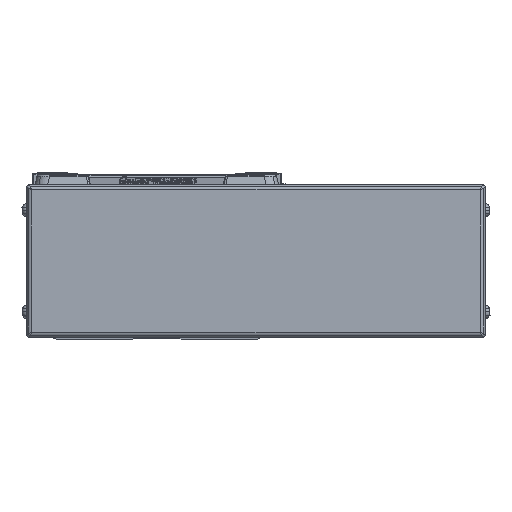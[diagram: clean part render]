
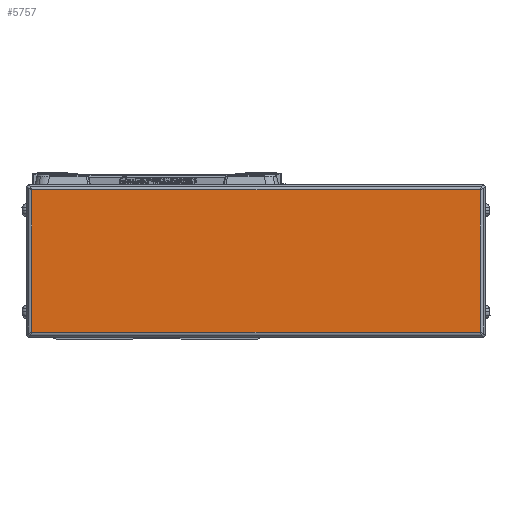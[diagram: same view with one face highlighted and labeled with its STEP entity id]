
A CAD part, left-side view. The second image highlights one B-rep face of the part: STEP entity #5757.
In plain terms, the highlighted planar face has unit normal (-1, 0, 0).
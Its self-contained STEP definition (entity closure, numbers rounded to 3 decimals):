
#5757=ADVANCED_FACE('',(#12353),#12354,.T.);
#12353=FACE_OUTER_BOUND('',#20429,.T.);
#12354=PLANE('',#20430);
#20429=EDGE_LOOP('',(#36971,#36972,#36973,#36974));
#20430=AXIS2_PLACEMENT_3D('',#36975,#36976,#36977);
#36971=ORIENTED_EDGE('',*,*,#50553,.F.);
#36972=ORIENTED_EDGE('',*,*,#47969,.F.);
#36973=ORIENTED_EDGE('',*,*,#50923,.F.);
#36974=ORIENTED_EDGE('',*,*,#46173,.F.);
#36975=CARTESIAN_POINT('',(-616.,-39.,0.));
#36976=DIRECTION('',(-1.0,0.,0.));
#36977=DIRECTION('',(0.,0.,1.0));
#46173=EDGE_CURVE('',#55670,#55672,#55673,.T.);
#47969=EDGE_CURVE('',#58649,#54583,#58651,.T.);
#50553=EDGE_CURVE('',#54583,#55670,#62434,.T.);
#50923=EDGE_CURVE('',#55672,#58649,#62925,.T.);
#54583=VERTEX_POINT('',#67428);
#55670=VERTEX_POINT('',#68863);
#55672=VERTEX_POINT('',#68865);
#55673=LINE('',#68866,#68867);
#58649=VERTEX_POINT('',#72942);
#58651=LINE('',#72944,#72945);
#62434=LINE('',#78184,#78185);
#62925=LINE('',#78877,#78878);
#67428=CARTESIAN_POINT('',(-616.,49.2,28.));
#68863=CARTESIAN_POINT('',(-616.,-127.2,28.));
#68865=CARTESIAN_POINT('',(-616.,-127.2,-28.));
#68866=CARTESIAN_POINT('',(-616.,-127.2,0.));
#68867=VECTOR('',#84405,10.0);
#72942=CARTESIAN_POINT('',(-616.0,49.2,-28.));
#72944=CARTESIAN_POINT('',(-616.,49.2,0.));
#72945=VECTOR('',#86852,10.0);
#78184=CARTESIAN_POINT('',(-616.,-39.,28.));
#78185=VECTOR('',#90176,10.0);
#78877=CARTESIAN_POINT('',(-616.,-39.,-28.));
#78878=VECTOR('',#90623,10.0);
#84405=DIRECTION('',(0.,0.,-1.0));
#86852=DIRECTION('',(0.,0.,1.0));
#90176=DIRECTION('',(0.,-1.0,0.));
#90623=DIRECTION('',(0.,1.0,0.));
